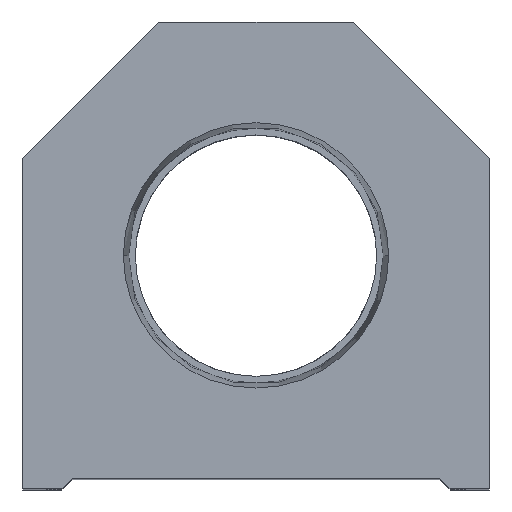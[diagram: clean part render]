
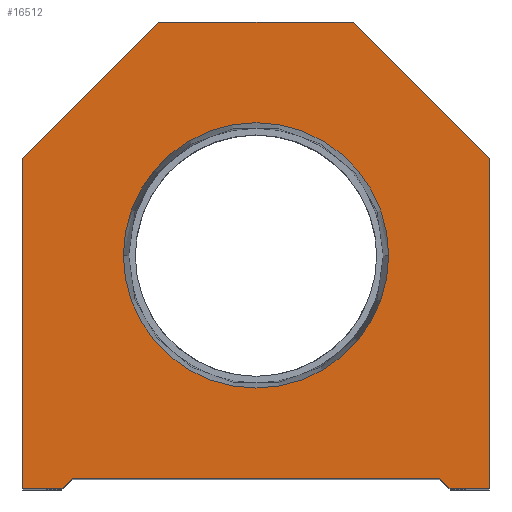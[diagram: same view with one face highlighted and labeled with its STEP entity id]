
A CAD part, top view. The second image highlights one B-rep face of the part: STEP entity #16512.
In plain terms, the highlighted planar face has unit normal (0, 0, 1).
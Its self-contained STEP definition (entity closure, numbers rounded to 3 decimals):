
#36 = LINE ( 'NONE', #14888, #16518 ) ;
#101 = ORIENTED_EDGE ( 'NONE', *, *, #9398, .T. ) ;
#325 = ORIENTED_EDGE ( 'NONE', *, *, #4328, .F. ) ;
#587 = VERTEX_POINT ( 'NONE', #5971 ) ;
#667 = EDGE_CURVE ( 'NONE', #587, #17973, #19414, .T. ) ;
#697 = VECTOR ( 'NONE', #2891, 1000. ) ;
#769 = CARTESIAN_POINT ( 'NONE',  ( 9.25, 9.25, 0. ) ) ;
#984 = VERTEX_POINT ( 'NONE', #19485 ) ;
#1001 = LINE ( 'NONE', #3768, #1654 ) ;
#1304 = VECTOR ( 'NONE', #15026, 1000. ) ;
#1334 = VECTOR ( 'NONE', #18727, 1000. ) ;
#1575 = DIRECTION ( 'NONE',  ( 1., 0., 0. ) ) ;
#1654 = VECTOR ( 'NONE', #7037, 1000. ) ;
#1935 = DIRECTION ( 'NONE',  ( 0., 0., 1. ) ) ;
#1967 = VECTOR ( 'NONE', #9868, 1000. ) ;
#2110 = VERTEX_POINT ( 'NONE', #17127 ) ;
#2223 = LINE ( 'NONE', #14231, #14906 ) ;
#2398 = DIRECTION ( 'NONE',  ( 0., 0., 1. ) ) ;
#2533 = VERTEX_POINT ( 'NONE', #13997 ) ;
#2891 = DIRECTION ( 'NONE',  ( -0.707, -0.707, 0. ) ) ;
#3086 = LINE ( 'NONE', #19390, #7467 ) ;
#3735 = VECTOR ( 'NONE', #1575, 1000. ) ;
#3768 = CARTESIAN_POINT ( 'NONE',  ( 17.5, 0., 0. ) ) ;
#4328 = EDGE_CURVE ( 'NONE', #7056, #13622, #8729, .T. ) ;
#4509 = EDGE_CURVE ( 'NONE', #15564, #18815, #3086, .T. ) ;
#4656 = ORIENTED_EDGE ( 'NONE', *, *, #7241, .T. ) ;
#4961 = EDGE_CURVE ( 'NONE', #13622, #7056, #8761, .T. ) ;
#5224 = EDGE_LOOP ( 'NONE', ( #4656, #101, #19020, #11536, #13655, #8672, #15752, #10890, #8257, #5974 ) ) ;
#5638 = CARTESIAN_POINT ( 'NONE',  ( 0., 22.25, 0. ) ) ;
#5971 = CARTESIAN_POINT ( 'NONE',  ( 22.25, 0., 0. ) ) ;
#5974 = ORIENTED_EDGE ( 'NONE', *, *, #4509, .T. ) ;
#6184 = CARTESIAN_POINT ( 'NONE',  ( -22.25, 31.5, 0. ) ) ;
#7037 = DIRECTION ( 'NONE',  ( 1., 0., 0. ) ) ;
#7056 = VERTEX_POINT ( 'NONE', #12337 ) ;
#7241 = EDGE_CURVE ( 'NONE', #18815, #2110, #14999, .T. ) ;
#7467 = VECTOR ( 'NONE', #9010, 1000. ) ;
#7511 = EDGE_CURVE ( 'NONE', #12153, #17715, #15553, .T. ) ;
#7584 = EDGE_LOOP ( 'NONE', ( #325, #12478 ) ) ;
#8109 = CARTESIAN_POINT ( 'NONE',  ( -22.25, 0., 0. ) ) ;
#8257 = ORIENTED_EDGE ( 'NONE', *, *, #10463, .T. ) ;
#8672 = ORIENTED_EDGE ( 'NONE', *, *, #667, .T. ) ;
#8729 = CIRCLE ( 'NONE', #9025, 12.647 ) ;
#8761 = CIRCLE ( 'NONE', #15729, 12.647 ) ;
#9010 = DIRECTION ( 'NONE',  ( 0., -1., 0. ) ) ;
#9025 = AXIS2_PLACEMENT_3D ( 'NONE', #5638, #2398, #17617 ) ;
#9398 = EDGE_CURVE ( 'NONE', #2110, #12153, #2223, .T. ) ;
#9820 = EDGE_CURVE ( 'NONE', #10473, #984, #36, .T. ) ;
#9868 = DIRECTION ( 'NONE',  ( -0.707, 0.707, 0. ) ) ;
#10425 = CARTESIAN_POINT ( 'NONE',  ( -17.5, 0., 0. ) ) ;
#10463 = EDGE_CURVE ( 'NONE', #984, #15564, #14989, .T. ) ;
#10473 = VERTEX_POINT ( 'NONE', #12114 ) ;
#10890 = ORIENTED_EDGE ( 'NONE', *, *, #9820, .T. ) ;
#11376 = CARTESIAN_POINT ( 'NONE',  ( 22.25, 31.5, 0. ) ) ;
#11487 = LINE ( 'NONE', #769, #1334 ) ;
#11536 = ORIENTED_EDGE ( 'NONE', *, *, #17227, .T. ) ;
#11676 = FACE_OUTER_BOUND ( 'NONE', #5224, .T. ) ;
#12114 = CARTESIAN_POINT ( 'NONE',  ( 9.25, 44.5, 0. ) ) ;
#12153 = VERTEX_POINT ( 'NONE', #19069 ) ;
#12337 = CARTESIAN_POINT ( 'NONE',  ( 12.647, 22.25, 0. ) ) ;
#12344 = EDGE_CURVE ( 'NONE', #17973, #10473, #14241, .T. ) ;
#12478 = ORIENTED_EDGE ( 'NONE', *, *, #4961, .F. ) ;
#12715 = CARTESIAN_POINT ( 'NONE',  ( -12.647, 22.25, 0. ) ) ;
#12740 = DIRECTION ( 'NONE',  ( 0.707, 0.707, 0. ) ) ;
#13003 = CARTESIAN_POINT ( 'NONE',  ( 22.25, 31.5, 0. ) ) ;
#13511 = DIRECTION ( 'NONE',  ( 1., 0., 0. ) ) ;
#13622 = VERTEX_POINT ( 'NONE', #12715 ) ;
#13655 = ORIENTED_EDGE ( 'NONE', *, *, #18452, .T. ) ;
#13954 = CARTESIAN_POINT ( 'NONE',  ( 0., 22.25, 0. ) ) ;
#13997 = CARTESIAN_POINT ( 'NONE',  ( 18.5, 0., 0. ) ) ;
#14231 = CARTESIAN_POINT ( 'NONE',  ( -9.25, 9.25, 0. ) ) ;
#14241 = LINE ( 'NONE', #11376, #1967 ) ;
#14640 = DIRECTION ( 'NONE',  ( 0., 0., 1. ) ) ;
#14829 = CARTESIAN_POINT ( 'NONE',  ( 22.25, 0., 0. ) ) ;
#14832 = DIRECTION ( 'NONE',  ( 1., 0., 0. ) ) ;
#14888 = CARTESIAN_POINT ( 'NONE',  ( 9.25, 44.5, 0. ) ) ;
#14906 = VECTOR ( 'NONE', #12740, 1000. ) ;
#14989 = LINE ( 'NONE', #19472, #697 ) ;
#14999 = LINE ( 'NONE', #10425, #16089 ) ;
#15026 = DIRECTION ( 'NONE',  ( 0., 1., 0. ) ) ;
#15352 = CARTESIAN_POINT ( 'NONE',  ( -17.5, 1., 0. ) ) ;
#15522 = DIRECTION ( 'NONE',  ( 1., 0., 0. ) ) ;
#15553 = LINE ( 'NONE', #15352, #3735 ) ;
#15564 = VERTEX_POINT ( 'NONE', #6184 ) ;
#15729 = AXIS2_PLACEMENT_3D ( 'NONE', #13954, #1935, #15522 ) ;
#15752 = ORIENTED_EDGE ( 'NONE', *, *, #12344, .T. ) ;
#16089 = VECTOR ( 'NONE', #13511, 1000. ) ;
#16433 = PLANE ( 'NONE',  #17128 ) ;
#16512 = ADVANCED_FACE ( 'NONE', ( #19024, #11676 ), #16433, .T. ) ;
#16518 = VECTOR ( 'NONE', #19377, 1000. ) ;
#17127 = CARTESIAN_POINT ( 'NONE',  ( -18.5, 0., 0. ) ) ;
#17128 = AXIS2_PLACEMENT_3D ( 'NONE', #17845, #14640, #14832 ) ;
#17227 = EDGE_CURVE ( 'NONE', #17715, #2533, #11487, .T. ) ;
#17617 = DIRECTION ( 'NONE',  ( 1., 0., 0. ) ) ;
#17715 = VERTEX_POINT ( 'NONE', #19202 ) ;
#17845 = CARTESIAN_POINT ( 'NONE',  ( 0., 0., 0. ) ) ;
#17973 = VERTEX_POINT ( 'NONE', #13003 ) ;
#18452 = EDGE_CURVE ( 'NONE', #2533, #587, #1001, .T. ) ;
#18727 = DIRECTION ( 'NONE',  ( 0.707, -0.707, 0. ) ) ;
#18815 = VERTEX_POINT ( 'NONE', #8109 ) ;
#19020 = ORIENTED_EDGE ( 'NONE', *, *, #7511, .T. ) ;
#19024 = FACE_BOUND ( 'NONE', #7584, .T. ) ;
#19069 = CARTESIAN_POINT ( 'NONE',  ( -17.5, 1., 0. ) ) ;
#19202 = CARTESIAN_POINT ( 'NONE',  ( 17.5, 1., 0. ) ) ;
#19377 = DIRECTION ( 'NONE',  ( -1., 0., 0. ) ) ;
#19390 = CARTESIAN_POINT ( 'NONE',  ( -22.25, 0., 0. ) ) ;
#19414 = LINE ( 'NONE', #14829, #1304 ) ;
#19472 = CARTESIAN_POINT ( 'NONE',  ( -22.25, 31.5, 0. ) ) ;
#19485 = CARTESIAN_POINT ( 'NONE',  ( -9.25, 44.5, 0. ) ) ;
